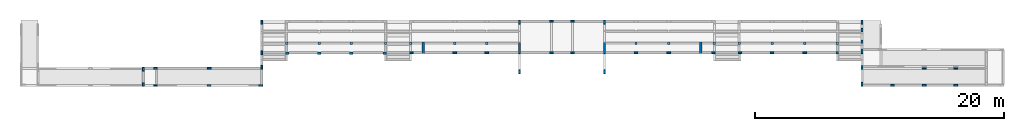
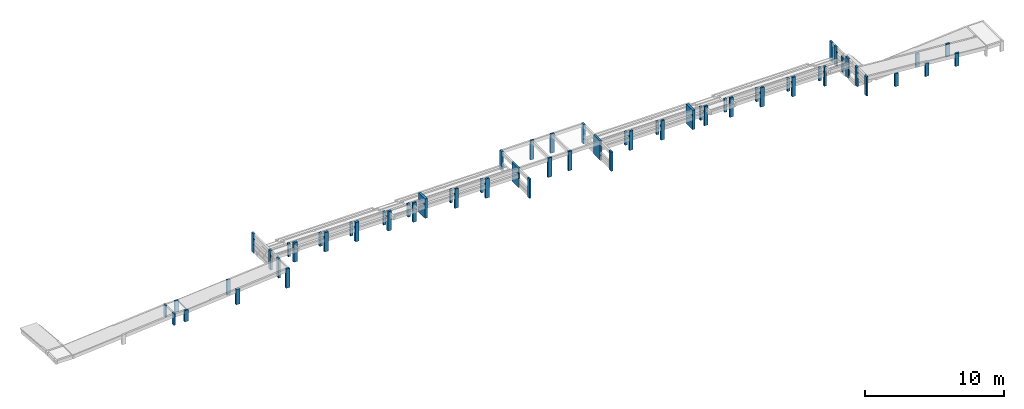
# One storey, part 1 of 9: 61 columns.
"""IFC4 building model written with IfcOpenShell, lengths in centimetres."""

from ifc_helpers import new_model, si_unit, derived_unit, frame, origin_with_axes, origin_2d_with_axis, place, context, project, spatial, rectangle, extrude, material, element, save


model = new_model("IFC4")

# Units and contexts
model_context = context("Model", 3, precision=1e-05, world=origin_with_axes(), identifier="Body")
ifc_project = project(units=[si_unit("LENGTHUNIT", "METRE", prefix="CENTI"), si_unit("VOLUMEUNIT", "CUBIC_METRE"), si_unit("AREAUNIT", "SQUARE_METRE"), si_unit("POWERUNIT", "WATT"), si_unit("LUMINOUSFLUXUNIT", "LUMEN"), si_unit("ELECTRICCURRENTUNIT", "AMPERE"), si_unit("PRESSUREUNIT", "PASCAL", prefix="KILO"), si_unit("MASSUNIT", "GRAM", prefix="KILO"), si_unit("PLANEANGLEUNIT", "RADIAN"), derived_unit("VOLUMETRICFLOWRATEUNIT", [(si_unit("LENGTHUNIT", "METRE"), 3), (si_unit("TIMEUNIT", "SECOND"), -1)])], contexts=[model_context])

# Site, building, storey
site_placement = place(None, origin_with_axes())
site = spatial("IfcSite", under=ifc_project, at=site_placement)
building_placement = place(site_placement, frame((0.0, 0.0, -170.0)))
building = spatial("IfcBuilding", under=site, at=building_placement)
placement = place(building_placement, origin_with_axes())
storey_placement = place(placement, frame((0.0, 0.0, 170.0), z_axis=(0.0, 0.0, 1.0), x_axis=(1.0, 0.0, 0.0)))
storey = spatial("IfcBuildingStorey", under=building, at=storey_placement, Name="Arquibancada", CompositionType="ELEMENT", Elevation=0.0)

# Columns
ifc_material = material(Name="Concreto")
column_1_placement = place(storey_placement, frame((4820.12, -121.5, 0.0), z_axis=(0.0, 0.0, 1.0), x_axis=(1.0, 0.0, 0.0)))
element("IfcColumn", 1, at=column_1_placement, inside=storey, material=ifc_material, Name="P100", context=model_context, shape_type="SolidModel", body=[
    extrude(rectangle(XDim=14.0, YDim=30.0, at=origin_2d_with_axis()), origin_with_axes(), (0.0, 0.0, -1.0), 170.0),
])
for number, where, z_axis, x_axis, name in (
    (2, (5065.12, -129.5, -56.0), (0.0, 0.0, 1.0), (1.0, 0.0, 0.0), "P101"),
    (3, (5318.12, -129.5, -56.0), (0.0, 0.0, 1.0), (1.0, 0.0, 0.0), "P102"),
    (4, (5570.62, -129.5, -56.0), (0.0, 0.0, 1.0), (1.0, 0.0, 0.0), "P103"),
):
    element("IfcColumn", number, at=place(storey_placement, frame(where, z_axis=z_axis, x_axis=x_axis)), inside=storey, material=ifc_material, Name=name, context=model_context, shape_type="SolidModel", body=[
        extrude(rectangle(XDim=14.0, YDim=30.0, at=origin_2d_with_axis()), frame((0.0, 0.0, 0.0), z_axis=(0.0, 0.0, 1.0), x_axis=(0.0, -1.0, 0.0)), (0.0, 0.0, -1.0), 114.0),
    ])
for number, where, z_axis, x_axis, name in (
    (5, (1206.54, 131.0, 0.0), (0.0, 0.0, 1.0), (1.0, 0.0, 0.0), "P107"),
    (6, (3629.09, 131.0, 0.0), (0.0, 0.0, 1.0), (1.0, 0.0, 0.0), "P108"),
):
    element("IfcColumn", number, at=place(storey_placement, frame(where, z_axis=z_axis, x_axis=x_axis)), inside=storey, material=ifc_material, Name=name, context=model_context, shape_type="SolidModel", body=[
        extrude(rectangle(XDim=14.0, YDim=30.0, at=origin_2d_with_axis()), frame((0.0, 0.0, 0.0), z_axis=(0.0, 0.0, 1.0), x_axis=(0.0, -1.0, 0.0)), (0.0, 0.0, -1.0), 170.0),
    ])
column_2_placement = place(storey_placement, frame((4820.12, 218.0, -35.0), z_axis=(0.0, 0.0, 1.0), x_axis=(1.0, 0.0, 0.0)))
element("IfcColumn", 7, at=column_2_placement, inside=storey, material=ifc_material, Name="P109", context=model_context, shape_type="SolidModel", body=[
    extrude(rectangle(XDim=14.0, YDim=30.0, at=origin_2d_with_axis()), origin_with_axes(), (0.0, 0.0, -1.0), 132.0),
])
column_3_placement = place(storey_placement, frame((2073.56, 377.0, 0.0), z_axis=(0.0, 0.0, 1.0), x_axis=(1.0, 0.0, 0.0)))
element("IfcColumn", 8, at=column_3_placement, inside=storey, material=ifc_material, Name="P11", context=model_context, shape_type="SolidModel", body=[
    extrude(rectangle(XDim=14.0, YDim=30.0, at=origin_2d_with_axis()), origin_with_axes(), (0.0, 0.0, -1.0), 170.0),
])
for number, where, z_axis, x_axis, name in (
    (9, (2330.56, 385.0, 0.0), (0.0, 0.0, 1.0), (1.0, 0.0, 0.0), "P12"),
    (10, (2497.56, 385.0, 0.0), (0.0, 0.0, 1.0), (1.0, 0.0, 0.0), "P13"),
):
    element("IfcColumn", number, at=place(storey_placement, frame(where, z_axis=z_axis, x_axis=x_axis)), inside=storey, material=ifc_material, Name=name, context=model_context, shape_type="SolidModel", body=[
        extrude(rectangle(XDim=14.0, YDim=30.0, at=origin_2d_with_axis()), frame((0.0, 0.0, 0.0), z_axis=(0.0, 0.0, 1.0), x_axis=(0.0, -1.0, 0.0)), (0.0, 0.0, -1.0), 170.0),
    ])
column_4_placement = place(storey_placement, frame((2754.56, 377.0, 0.0), z_axis=(0.0, 0.0, 1.0), x_axis=(1.0, 0.0, 0.0)))
element("IfcColumn", 11, at=column_4_placement, inside=storey, material=ifc_material, Name="P14", context=model_context, shape_type="SolidModel", body=[
    extrude(rectangle(XDim=14.0, YDim=30.0, at=origin_2d_with_axis()), frame((0.0, 0.0, 0.0), z_axis=(0.0, 0.0, 1.0), x_axis=(-1.0, 0.0, 0.0)), (0.0, 0.0, -1.0), 170.0),
])
column_5_placement = place(storey_placement, frame((4820.12, 377.0, 0.0), z_axis=(0.0, 0.0, 1.0), x_axis=(1.0, 0.0, 0.0)))
element("IfcColumn", 12, at=column_5_placement, inside=storey, material=ifc_material, Name="P22", context=model_context, shape_type="SolidModel", body=[
    extrude(rectangle(XDim=14.0, YDim=30.0, at=origin_2d_with_axis()), origin_with_axes(), (0.0, 0.0, -1.0), 170.0),
])
column_6_placement = place(storey_placement, frame((7.5, 377.0, 0.0), z_axis=(0.0, 0.0, 1.0), x_axis=(1.0, 0.0, 0.0)))
element("IfcColumn", 13, at=column_6_placement, inside=storey, material=ifc_material, Name="P3", context=model_context, shape_type="SolidModel", body=[
    extrude(rectangle(XDim=14.0, YDim=30.0, at=origin_2d_with_axis()), frame((0.0, 0.0, 0.0), z_axis=(0.0, 0.0, 1.0), x_axis=(-1.0, 0.0, 0.0)), (0.0, 0.0, -1.0), 170.0),
])
column_7_placement = place(storey_placement, frame((4820.12, 313.0, 0.0), z_axis=(0.0, 0.0, 1.0), x_axis=(1.0, 0.0, 0.0)))
element("IfcColumn", 14, at=column_7_placement, inside=storey, material=ifc_material, Name="P38", context=model_context, shape_type="SolidModel", body=[
    extrude(rectangle(XDim=14.0, YDim=30.0, at=origin_2d_with_axis()), origin_with_axes(), (0.0, 0.0, -1.0), 170.0),
])
column_8_placement = place(storey_placement, frame((206.0, 207.5, -56.0), z_axis=(0.0, 0.0, 1.0), x_axis=(1.0, 0.0, 0.0)))
element("IfcColumn", 15, at=column_8_placement, inside=storey, material=ifc_material, Name="P39", context=model_context, shape_type="SolidModel", body=[
    extrude(rectangle(XDim=19.0, YDim=19.0, at=origin_2d_with_axis()), frame((0.0, 0.0, 0.0), z_axis=(0.0, 0.0, 1.0), x_axis=(0.0, -1.0, 0.0)), (0.0, 0.0, -1.0), 114.0),
])
column_9_placement = place(storey_placement, frame((467.82, 207.0, -56.0), z_axis=(0.0, 0.0, 1.0), x_axis=(1.0, 0.0, 0.0)))
element("IfcColumn", 16, at=column_9_placement, inside=storey, material=ifc_material, Name="P40", context=model_context, shape_type="SolidModel", body=[
    extrude(rectangle(XDim=20.0, YDim=20.0, at=origin_2d_with_axis()), frame((0.0, 0.0, 0.0), z_axis=(0.0, 0.0, 1.0), x_axis=(0.0, -1.0, 0.0)), (0.0, 0.0, -1.0), 114.0),
])
for number, where, z_axis, x_axis, name in (
    (17, (724.14, 207.5, -56.0), (0.0, 0.0, 1.0), (1.0, 0.0, 0.0), "P41"),
    (18, (999.03, 207.5, -56.0), (0.0, 0.0, 1.0), (1.0, 0.0, 0.0), "P42"),
    (19, (1201.03, 207.5, -56.0), (0.0, 0.0, 1.0), (1.0, 0.0, 0.0), "P43"),
):
    element("IfcColumn", number, at=place(storey_placement, frame(where, z_axis=z_axis, x_axis=x_axis)), inside=storey, material=ifc_material, Name=name, context=model_context, shape_type="SolidModel", body=[
        extrude(rectangle(XDim=19.0, YDim=19.0, at=origin_2d_with_axis()), frame((0.0, 0.0, 0.0), z_axis=(0.0, 0.0, 1.0), x_axis=(0.0, -1.0, 0.0)), (0.0, 0.0, -1.0), 114.0),
    ])
column_10_placement = place(storey_placement, frame((1300.56, 170.5, 0.0), z_axis=(0.0, 0.0, 1.0), x_axis=(1.0, 0.0, 0.0)))
element("IfcColumn", 20, at=column_10_placement, inside=storey, material=ifc_material, Name="P44", context=model_context, shape_type="SolidModel", body=[
    extrude(rectangle(XDim=20.0, YDim=93.0, at=origin_2d_with_axis()), frame((0.0, 0.0, 0.0), z_axis=(0.0, 0.0, 1.0), x_axis=(-1.0, 0.0, 0.0)), (0.0, 0.0, -1.0), 170.0),
])
for number, where, z_axis, x_axis, name in (
    (21, (1553.92, 207.5, -56.0), (0.0, 0.0, 1.0), (1.0, 0.0, 0.0), "P45"),
    (22, (1810.24, 207.5, -56.0), (0.0, 0.0, 1.0), (1.0, 0.0, 0.0), "P46"),
):
    element("IfcColumn", number, at=place(storey_placement, frame(where, z_axis=z_axis, x_axis=x_axis)), inside=storey, material=ifc_material, Name=name, context=model_context, shape_type="SolidModel", body=[
        extrude(rectangle(XDim=19.0, YDim=19.0, at=origin_2d_with_axis()), frame((0.0, 0.0, 0.0), z_axis=(0.0, 0.0, 1.0), x_axis=(0.0, -1.0, 0.0)), (0.0, 0.0, -1.0), 114.0),
    ])
for number, where, z_axis, x_axis, name in (
    (23, (2073.56, 170.5, 0.0), (0.0, 0.0, 1.0), (1.0, 0.0, 0.0), "P47"),
    (24, (2754.56, 170.5, 0.0), (0.0, 0.0, 1.0), (1.0, 0.0, 0.0), "P48"),
):
    element("IfcColumn", number, at=place(storey_placement, frame(where, z_axis=z_axis, x_axis=x_axis)), inside=storey, material=ifc_material, Name=name, context=model_context, shape_type="SolidModel", body=[
        extrude(rectangle(XDim=14.0, YDim=93.0, at=origin_2d_with_axis()), origin_with_axes(), (0.0, 0.0, -1.0), 170.0),
    ])
for number, where, z_axis, x_axis, name in (
    (25, (3008.01, 207.5, -56.0), (0.0, 0.0, 1.0), (1.0, 0.0, 0.0), "P49"),
    (26, (3269.95, 207.5, -56.0), (0.0, 0.0, 1.0), (1.0, 0.0, 0.0), "P50"),
):
    element("IfcColumn", number, at=place(storey_placement, frame(where, z_axis=z_axis, x_axis=x_axis)), inside=storey, material=ifc_material, Name=name, context=model_context, shape_type="SolidModel", body=[
        extrude(rectangle(XDim=19.0, YDim=19.0, at=origin_2d_with_axis()), frame((0.0, 0.0, 0.0), z_axis=(0.0, 0.0, 1.0), x_axis=(0.0, -1.0, 0.0)), (0.0, 0.0, -1.0), 114.0),
    ])
column_11_placement = place(storey_placement, frame((3527.56, 170.5, 0.0), z_axis=(0.0, 0.0, 1.0), x_axis=(1.0, 0.0, 0.0)))
element("IfcColumn", 27, at=column_11_placement, inside=storey, material=ifc_material, Name="P51", context=model_context, shape_type="SolidModel", body=[
    extrude(rectangle(XDim=20.0, YDim=93.0, at=origin_2d_with_axis()), frame((0.0, 0.0, 0.0), z_axis=(0.0, 0.0, 1.0), x_axis=(-1.0, 0.0, 0.0)), (0.0, 0.0, -1.0), 170.0),
])
for number, where, z_axis, x_axis, name in (
    (28, (3634.59, 207.5, -56.0), (0.0, 0.0, 1.0), (1.0, 0.0, 0.0), "P52"),
    (29, (3836.59, 207.5, -56.0), (0.0, 0.0, 1.0), (1.0, 0.0, 0.0), "P53"),
    (30, (4098.54, 207.5, -56.0), (0.0, 0.0, 1.0), (1.0, 0.0, 0.0), "P54"),
    (31, (4360.17, 207.5, -56.0), (0.0, 0.0, 1.0), (1.0, 0.0, 0.0), "P55"),
    (32, (4622.12, 207.5, -56.0), (0.0, 0.0, 1.0), (1.0, 0.0, 0.0), "P56"),
):
    element("IfcColumn", number, at=place(storey_placement, frame(where, z_axis=z_axis, x_axis=x_axis)), inside=storey, material=ifc_material, Name=name, context=model_context, shape_type="SolidModel", body=[
        extrude(rectangle(XDim=19.0, YDim=19.0, at=origin_2d_with_axis()), frame((0.0, 0.0, 0.0), z_axis=(0.0, 0.0, 1.0), x_axis=(0.0, -1.0, 0.0)), (0.0, 0.0, -1.0), 114.0),
    ])
column_12_placement = place(storey_placement, frame((7.5, 131.0, 0.0), z_axis=(0.0, 0.0, 1.0), x_axis=(1.0, 0.0, 0.0)))
element("IfcColumn", 33, at=column_12_placement, inside=storey, material=ifc_material, Name="P57", context=model_context, shape_type="SolidModel", body=[
    extrude(rectangle(XDim=14.0, YDim=30.0, at=origin_2d_with_axis()), frame((0.0, 0.0, 0.0), z_axis=(0.0, 0.0, 1.0), x_axis=(-1.0, 0.0, 0.0)), (0.0, 0.0, -1.0), 170.0),
])
for number, where, z_axis, x_axis, name in (
    (34, (211.5, 128.5, 0.0), (0.0, 0.0, 1.0), (1.0, 0.0, 0.0), "P58"),
    (35, (467.82, 128.5, 0.0), (0.0, 0.0, 1.0), (1.0, 0.0, 0.0), "P59"),
    (36, (724.14, 128.5, 0.0), (0.0, 0.0, 1.0), (1.0, 0.0, 0.0), "P60"),
    (37, (993.53, 128.5, 0.0), (0.0, 0.0, 1.0), (1.0, 0.0, 0.0), "P61"),
):
    element("IfcColumn", number, at=place(storey_placement, frame(where, z_axis=z_axis, x_axis=x_axis)), inside=storey, material=ifc_material, Name=name, context=model_context, shape_type="SolidModel", body=[
        extrude(rectangle(XDim=19.0, YDim=30.0, at=origin_2d_with_axis()), frame((0.0, 0.0, 0.0), z_axis=(0.0, 0.0, 1.0), x_axis=(0.0, -1.0, 0.0)), (0.0, 0.0, -1.0), 170.0),
    ])
for number, where, z_axis, x_axis, name in (
    (38, (1553.92, 131.0, 0.0), (0.0, 0.0, 1.0), (1.0, 0.0, 0.0), "P62"),
    (39, (1810.24, 131.0, 0.0), (0.0, 0.0, 1.0), (1.0, 0.0, 0.0), "P63"),
    (40, (2330.56, 131.0, 0.0), (0.0, 0.0, 1.0), (1.0, 0.0, 0.0), "P64"),
    (41, (2497.56, 131.0, 0.0), (0.0, 0.0, 1.0), (1.0, 0.0, 0.0), "P65"),
    (42, (3008.01, 131.0, 0.0), (0.0, 0.0, 1.0), (1.0, 0.0, 0.0), "P66"),
    (43, (3269.95, 131.0, 0.0), (0.0, 0.0, 1.0), (1.0, 0.0, 0.0), "P67"),
    (44, (3842.09, 131.0, 0.0), (0.0, 0.0, 1.0), (1.0, 0.0, 0.0), "P68"),
    (45, (4098.54, 131.0, 0.0), (0.0, 0.0, 1.0), (1.0, 0.0, 0.0), "P69"),
    (46, (4360.17, 131.0, 0.0), (0.0, 0.0, 1.0), (1.0, 0.0, 0.0), "P70"),
):
    element("IfcColumn", number, at=place(storey_placement, frame(where, z_axis=z_axis, x_axis=x_axis)), inside=storey, material=ifc_material, Name=name, context=model_context, shape_type="SolidModel", body=[
        extrude(rectangle(XDim=14.0, YDim=30.0, at=origin_2d_with_axis()), frame((0.0, 0.0, 0.0), z_axis=(0.0, 0.0, 1.0), x_axis=(0.0, -1.0, 0.0)), (0.0, 0.0, -1.0), 170.0),
    ])
column_13_placement = place(storey_placement, frame((4622.12, 131.0, 0.0), z_axis=(0.0, 0.0, 1.0), x_axis=(1.0, 0.0, 0.0)))
element("IfcColumn", 47, at=column_13_placement, inside=storey, material=ifc_material, Name="P71", context=model_context, shape_type="SolidModel", body=[
    extrude(rectangle(XDim=19.0, YDim=19.0, at=origin_2d_with_axis()), frame((0.0, 0.0, 0.0), z_axis=(0.0, 0.0, 1.0), x_axis=(0.0, -1.0, 0.0)), (0.0, 0.0, -1.0), 170.0),
])
column_14_placement = place(storey_placement, frame((4820.12, 144.0, 0.0), z_axis=(0.0, 0.0, 1.0), x_axis=(1.0, 0.0, 0.0)))
element("IfcColumn", 48, at=column_14_placement, inside=storey, material=ifc_material, Name="P72", context=model_context, shape_type="SolidModel", body=[
    extrude(rectangle(XDim=14.0, YDim=40.0, at=origin_2d_with_axis()), origin_with_axes(), (0.0, 0.0, -1.0), 170.0),
])
column_15_placement = place(storey_placement, frame((-943.5, -1.0, -69.0), z_axis=(0.0, 0.0, 1.0), x_axis=(1.0, 0.0, 0.0)))
element("IfcColumn", 49, at=column_15_placement, inside=storey, material=ifc_material, Name="P81", context=model_context, shape_type="SolidModel", body=[
    extrude(rectangle(XDim=14.0, YDim=30.0, at=origin_2d_with_axis()), origin_with_axes(), (0.0, 0.0, -1.0), 101.0),
])
column_16_placement = place(storey_placement, frame((-845.5, 7.0, -69.0), z_axis=(0.0, 0.0, 1.0), x_axis=(1.0, 0.0, 0.0)))
element("IfcColumn", 50, at=column_16_placement, inside=storey, material=ifc_material, Name="P82", context=model_context, shape_type="SolidModel", body=[
    extrude(rectangle(XDim=14.0, YDim=30.0, at=origin_2d_with_axis()), frame((0.0, 0.0, 0.0), z_axis=(0.0, 0.0, 1.0), x_axis=(0.0, -1.0, 0.0)), (0.0, 0.0, -1.0), 101.0),
])
column_17_placement = place(storey_placement, frame((-415.0, 7.0, -35.0), z_axis=(0.0, 0.0, 1.0), x_axis=(1.0, 0.0, 0.0)))
element("IfcColumn", 51, at=column_17_placement, inside=storey, material=ifc_material, Name="P83", context=model_context, shape_type="SolidModel", body=[
    extrude(rectangle(XDim=14.0, YDim=30.0, at=origin_2d_with_axis()), frame((0.0, 0.0, 0.0), z_axis=(0.0, 0.0, 1.0), x_axis=(0.0, -1.0, 0.0)), (0.0, 0.0, -1.0), 135.0),
])
for number, where, z_axis, x_axis, name in (
    (52, (7.5, 15.0, 0.0), (0.0, 0.0, 1.0), (1.0, 0.0, 0.0), "P84"),
    (53, (2073.57, -20.5, 0.0), (0.0, 0.0, 1.0), (1.0, 0.0, 0.0), "P85"),
):
    element("IfcColumn", number, at=place(storey_placement, frame(where, z_axis=z_axis, x_axis=x_axis)), inside=storey, material=ifc_material, Name=name, context=model_context, shape_type="SolidModel", body=[
        extrude(rectangle(XDim=14.0, YDim=30.0, at=origin_2d_with_axis()), frame((0.0, 0.0, 0.0), z_axis=(0.0, 0.0, 1.0), x_axis=(-1.0, 0.0, 0.0)), (0.0, 0.0, -1.0), 170.0),
    ])
column_18_placement = place(storey_placement, frame((2754.56, -20.5, 0.0), z_axis=(0.0, 0.0, 1.0), x_axis=(1.0, 0.0, 0.0)))
element("IfcColumn", 54, at=column_18_placement, inside=storey, material=ifc_material, Name="P86", context=model_context, shape_type="SolidModel", body=[
    extrude(rectangle(XDim=14.0, YDim=30.0, at=origin_2d_with_axis()), origin_with_axes(), (0.0, 0.0, -1.0), 170.0),
])
column_19_placement = place(storey_placement, frame((4820.12, 14.0, 0.0), z_axis=(0.0, 0.0, 1.0), x_axis=(1.0, 0.0, 0.0)))
element("IfcColumn", 55, at=column_19_placement, inside=storey, material=ifc_material, Name="P87", context=model_context, shape_type="SolidModel", body=[
    extrude(rectangle(XDim=14.0, YDim=29.0, at=origin_2d_with_axis()), frame((0.0, 0.0, 0.0), z_axis=(0.0, 0.0, 1.0), x_axis=(-1.0, 0.0, 0.0)), (0.0, 0.0, -1.0), 170.0),
])
for number, where, z_axis, x_axis, name in (
    (56, (5318.12, 6.5, -56.0), (0.0, 0.0, 1.0), (1.0, 0.0, 0.0), "P90"),
    (57, (5570.62, 6.5, -56.0), (0.0, 0.0, 1.0), (1.0, 0.0, 0.0), "P92"),
):
    element("IfcColumn", number, at=place(storey_placement, frame(where, z_axis=z_axis, x_axis=x_axis)), inside=storey, material=ifc_material, Name=name, context=model_context, shape_type="SolidModel", body=[
        extrude(rectangle(XDim=14.0, YDim=30.0, at=origin_2d_with_axis()), frame((0.0, 0.0, 0.0), z_axis=(0.0, 0.0, 1.0), x_axis=(0.0, -1.0, 0.0)), (0.0, 0.0, -1.0), 114.0),
    ])
column_20_placement = place(storey_placement, frame((-943.5, -122.0, -69.0), z_axis=(0.0, 0.0, 1.0), x_axis=(1.0, 0.0, 0.0)))
element("IfcColumn", 58, at=column_20_placement, inside=storey, material=ifc_material, Name="P96", context=model_context, shape_type="SolidModel", body=[
    extrude(rectangle(XDim=14.0, YDim=30.0, at=origin_2d_with_axis()), frame((0.0, 0.0, 0.0), z_axis=(0.0, 0.0, 1.0), x_axis=(-1.0, 0.0, 0.0)), (0.0, 0.0, -1.0), 101.0),
])
column_21_placement = place(storey_placement, frame((-845.5, -130.0, -69.0), z_axis=(0.0, 0.0, 1.0), x_axis=(1.0, 0.0, 0.0)))
element("IfcColumn", 59, at=column_21_placement, inside=storey, material=ifc_material, Name="P97", context=model_context, shape_type="SolidModel", body=[
    extrude(rectangle(XDim=14.0, YDim=30.0, at=origin_2d_with_axis()), frame((0.0, 0.0, 0.0), z_axis=(0.0, 0.0, 1.0), x_axis=(0.0, -1.0, 0.0)), (0.0, 0.0, -1.0), 101.0),
])
column_22_placement = place(storey_placement, frame((-416.45, -130.0, -35.0), z_axis=(0.0, 0.0, 1.0), x_axis=(1.0, 0.0, 0.0)))
element("IfcColumn", 60, at=column_22_placement, inside=storey, material=ifc_material, Name="P98", context=model_context, shape_type="SolidModel", body=[
    extrude(rectangle(XDim=14.0, YDim=30.0, at=origin_2d_with_axis()), frame((0.0, 0.0, 0.0), z_axis=(0.0, 0.0, 1.0), x_axis=(0.0, -1.0, 0.0)), (0.0, 0.0, -1.0), 135.0),
])
column_23_placement = place(storey_placement, frame((-0.5, -130.0, 0.0), z_axis=(0.0, 0.0, 1.0), x_axis=(1.0, 0.0, 0.0)))
element("IfcColumn", 61, at=column_23_placement, inside=storey, material=ifc_material, Name="P99", context=model_context, shape_type="SolidModel", body=[
    extrude(rectangle(XDim=14.0, YDim=30.0, at=origin_2d_with_axis()), frame((0.0, 0.0, 0.0), z_axis=(0.0, 0.0, 1.0), x_axis=(0.0, -1.0, 0.0)), (0.0, 0.0, -1.0), 170.0),
])

save(model, "model.ifc")
